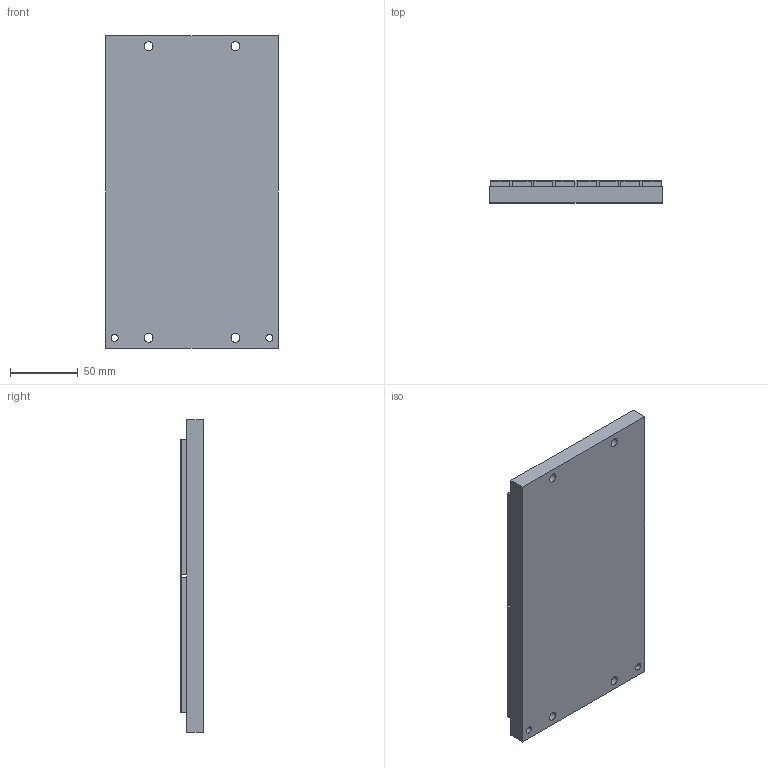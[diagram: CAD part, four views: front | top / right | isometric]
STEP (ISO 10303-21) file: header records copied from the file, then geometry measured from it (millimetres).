
FILE_DESCRIPTION((''),'2;1');
FILE_NAME('MC200-0128-WC','2007-01-14T',('saurabh.singhal'),(''),'PRO/ENGINEER BY PARAMETRIC TECHNOLOGY CORPORATION, 2005450','PRO/ENGINEER BY PARAMETRIC TECHNOLOGY CORPORATION, 2005450','');
FILE_SCHEMA(('CONFIG_CONTROL_DESIGN'));
Length unit declared in the file: millimetre
Products named in the file (1): MC200-0128-WC
Bounding box: 127.3 x 16.4 x 230 mm (x, y, z)
Volume: 444375.5 mm3; surface area: 136320.4 mm2
Topology: 1 solids, 1 shells, 118 faces, 288 edges, 192 vertices
Faces by surface type: plane 98, cylinder 20
Entity records: 3498 total; most frequent: CARTESIAN_POINT 598, ORIENTED_EDGE 576, DIRECTION 564, EDGE_CURVE 288, VECTOR 248, LINE 248, VERTEX_POINT 192, AXIS2_PLACEMENT_3D 158
